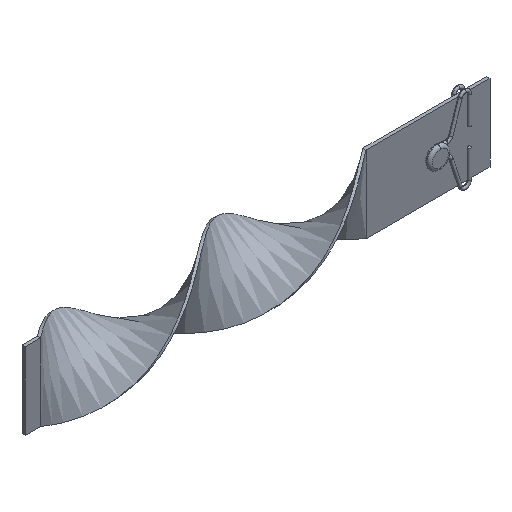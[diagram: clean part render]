
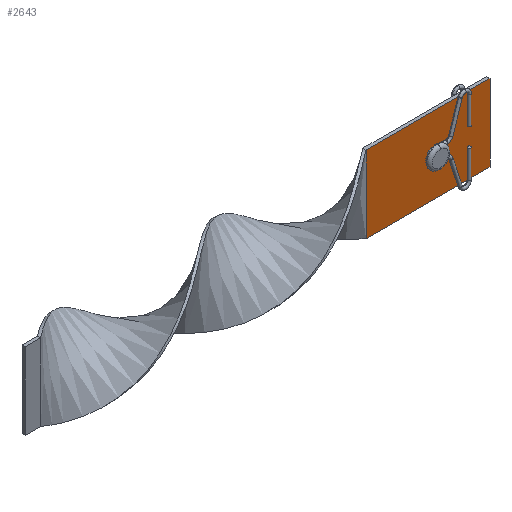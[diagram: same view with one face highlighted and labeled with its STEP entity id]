
A CAD part, isometric view. The second image highlights one B-rep face of the part: STEP entity #2643.
In plain terms, the highlighted planar face has unit normal (0, -1, 0).
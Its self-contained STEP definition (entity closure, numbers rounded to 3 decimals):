
#24 = ORIENTED_EDGE ( 'NONE', *, *, #2365, .T. ) ;
#120 = LINE ( 'NONE', #2566, #2034 ) ;
#253 = CARTESIAN_POINT ( 'NONE',  ( -40., -0.5, -12.4 ) ) ;
#309 = CARTESIAN_POINT ( 'NONE',  ( -18., -0.5, 1.95 ) ) ;
#321 = CARTESIAN_POINT ( 'NONE',  ( 0., -0.5, 0. ) ) ;
#358 = FACE_BOUND ( 'NONE', #866, .T. ) ;
#483 = VECTOR ( 'NONE', #838, 1000. ) ;
#523 = LINE ( 'NONE', #1538, #3056 ) ;
#565 = DIRECTION ( 'NONE',  ( 0., 0., -1. ) ) ;
#647 = EDGE_CURVE ( 'NONE', #2585, #2255, #2703, .T. ) ;
#652 = VERTEX_POINT ( 'NONE', #309 ) ;
#673 = VECTOR ( 'NONE', #1536, 1000. ) ;
#705 = DIRECTION ( 'NONE',  ( 0., 1., 0. ) ) ;
#710 = EDGE_CURVE ( 'NONE', #2255, #2196, #523, .T. ) ;
#788 = ORIENTED_EDGE ( 'NONE', *, *, #1306, .T. ) ;
#790 = DIRECTION ( 'NONE',  ( 1., 0., 0. ) ) ;
#819 = ORIENTED_EDGE ( 'NONE', *, *, #647, .F. ) ;
#830 = CIRCLE ( 'NONE', #2490, 1.95 ) ;
#838 = DIRECTION ( 'NONE',  ( -1., 0., 0. ) ) ;
#866 = EDGE_LOOP ( 'NONE', ( #24, #788 ) ) ;
#870 = AXIS2_PLACEMENT_3D ( 'NONE', #2146, #705, #1923 ) ;
#962 = EDGE_CURVE ( 'NONE', #2196, #1739, #120, .T. ) ;
#988 = CARTESIAN_POINT ( 'NONE',  ( -18., -0.5, 0. ) ) ;
#1083 = DIRECTION ( 'NONE',  ( 0., 0., 1. ) ) ;
#1091 = AXIS2_PLACEMENT_3D ( 'NONE', #321, #2554, #1083 ) ;
#1139 = EDGE_LOOP ( 'NONE', ( #2035, #1368, #1955, #819 ) ) ;
#1147 = CARTESIAN_POINT ( 'NONE',  ( 0., -0.5, -12.4 ) ) ;
#1245 = DIRECTION ( 'NONE',  ( 0., 0., 1. ) ) ;
#1306 = EDGE_CURVE ( 'NONE', #2060, #652, #1403, .T. ) ;
#1368 = ORIENTED_EDGE ( 'NONE', *, *, #962, .F. ) ;
#1403 = CIRCLE ( 'NONE', #870, 1.95 ) ;
#1435 = CARTESIAN_POINT ( 'NONE',  ( -40., -0.5, 12.4 ) ) ;
#1536 = DIRECTION ( 'NONE',  ( 0., 0., 1. ) ) ;
#1538 = CARTESIAN_POINT ( 'NONE',  ( 0., -0.5, 12.4 ) ) ;
#1739 = VERTEX_POINT ( 'NONE', #1147 ) ;
#1830 = CARTESIAN_POINT ( 'NONE',  ( 0., -0.5, -12.4 ) ) ;
#1923 = DIRECTION ( 'NONE',  ( 0., 0., 1. ) ) ;
#1955 = ORIENTED_EDGE ( 'NONE', *, *, #710, .F. ) ;
#2034 = VECTOR ( 'NONE', #565, 1000. ) ;
#2035 = ORIENTED_EDGE ( 'NONE', *, *, #2710, .F. ) ;
#2060 = VERTEX_POINT ( 'NONE', #3170 ) ;
#2146 = CARTESIAN_POINT ( 'NONE',  ( -18., -0.5, 0. ) ) ;
#2196 = VERTEX_POINT ( 'NONE', #2878 ) ;
#2255 = VERTEX_POINT ( 'NONE', #1435 ) ;
#2302 = PLANE ( 'NONE',  #1091 ) ;
#2365 = EDGE_CURVE ( 'NONE', #652, #2060, #830, .T. ) ;
#2453 = LINE ( 'NONE', #1830, #483 ) ;
#2490 = AXIS2_PLACEMENT_3D ( 'NONE', #988, #2691, #1245 ) ;
#2538 = CARTESIAN_POINT ( 'NONE',  ( -40., -0.5, -12.4 ) ) ;
#2554 = DIRECTION ( 'NONE',  ( 0., 1., 0. ) ) ;
#2566 = CARTESIAN_POINT ( 'NONE',  ( 0., -0.5, 12.4 ) ) ;
#2585 = VERTEX_POINT ( 'NONE', #2538 ) ;
#2643 = ADVANCED_FACE ( 'NONE', ( #358, #2747 ), #2302, .F. ) ;
#2691 = DIRECTION ( 'NONE',  ( 0., 1., 0. ) ) ;
#2703 = LINE ( 'NONE', #253, #673 ) ;
#2710 = EDGE_CURVE ( 'NONE', #1739, #2585, #2453, .T. ) ;
#2747 = FACE_OUTER_BOUND ( 'NONE', #1139, .T. ) ;
#2878 = CARTESIAN_POINT ( 'NONE',  ( 0., -0.5, 12.4 ) ) ;
#3056 = VECTOR ( 'NONE', #790, 1000. ) ;
#3170 = CARTESIAN_POINT ( 'NONE',  ( -18., -0.5, -1.95 ) ) ;
